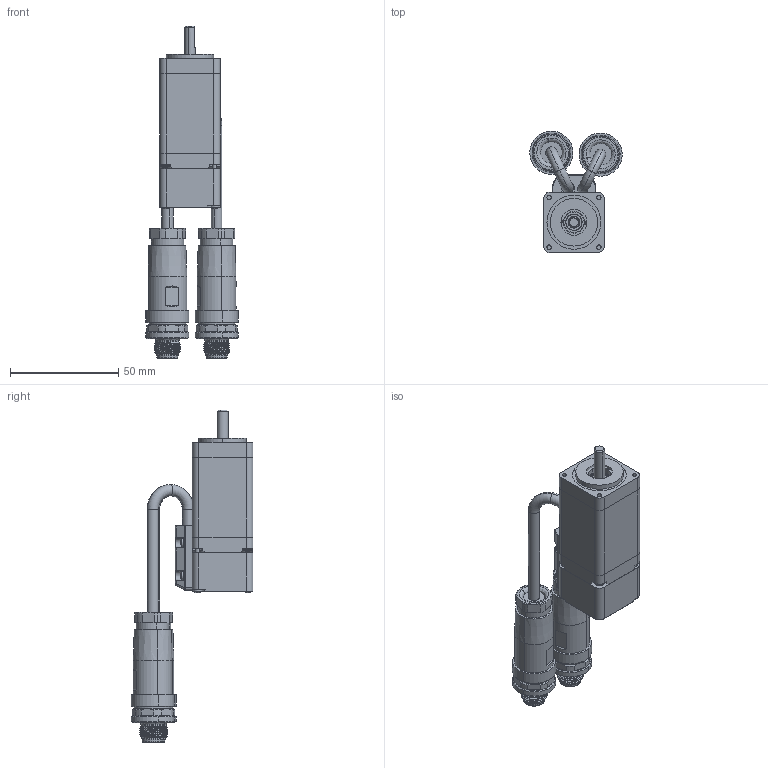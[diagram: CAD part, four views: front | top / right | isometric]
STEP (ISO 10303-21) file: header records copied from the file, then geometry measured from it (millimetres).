
FILE_DESCRIPTION (( 'STEP AP214' ), '1' );
FILE_NAME ('M28SH51-TO1000L05C.STEP', '2025-05-17T06:59:53', ( '' ), ( '' ), 'SwSTEP 2.0', 'SolidWorks 2019', '' );
FILE_SCHEMA (( 'AUTOMOTIVE_DESIGN' ));
Length unit declared in the file: millimetre
Products named in the file (1): M28SH51-TO1000L05C
Bounding box: 42.67 x 56.32 x 153.55 mm (x, y, z)
Volume: 53712.9 mm3; surface area: 37756.8 mm2
Topology: 29 solids, 29 shells, 1519 faces, 3775 edges, 2357 vertices
Faces by surface type: plane 696, cylinder 338, bspline 235, cone 190, torus 44, sphere 16
Entity records: 75328 total; most frequent: CARTESIAN_POINT 23730, ORIENTED_EDGE 7448, DIRECTION 6734, EDGE_CURVE 3724, AXIS2_PLACEMENT_3D 2431, VERTEX_POINT 2357, LINE 1872, VECTOR 1872
